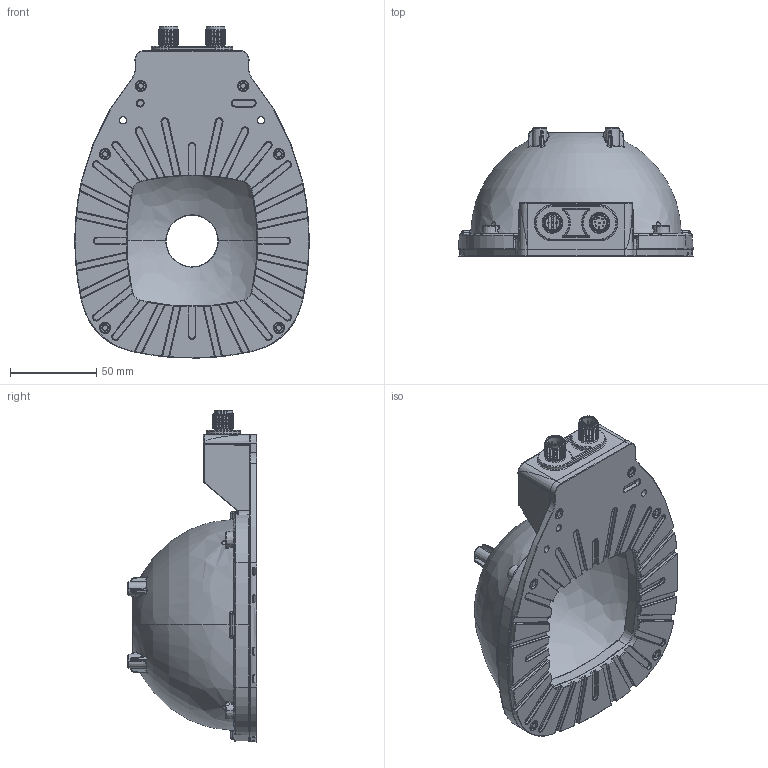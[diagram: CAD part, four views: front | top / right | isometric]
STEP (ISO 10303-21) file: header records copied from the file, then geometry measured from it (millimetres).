
FILE_DESCRIPTION (( 'STEP AP203' ), '1' );
FILE_NAME ('MR-80-D.STEP', '2017-02-07T10:59:56', ( '' ), ( '' ), 'SwSTEP 2.0', 'SolidWorks 2014', '' );
FILE_SCHEMA (( 'CONFIG_CONTROL_DESIGN' ));
Length unit declared in the file: millimetre
Products named in the file (1): MR-80-D
Bounding box: 136.05 x 75 x 192.75 mm (x, y, z)
Volume: 253741.6 mm3; surface area: 107133.4 mm2
Topology: 6 solids, 16 shells, 3060 faces, 7422 edges, 4291 vertices
Faces by surface type: cylinder 931, bspline 643, plane 620, torus 537, cone 177, sphere 152
Entity records: 118881 total; most frequent: CARTESIAN_POINT 52679, ORIENTED_EDGE 14456, DIRECTION 13477, EDGE_CURVE 7228, AXIS2_PLACEMENT_3D 5607, VERTEX_POINT 4287, CIRCLE 3189, EDGE_LOOP 3173
